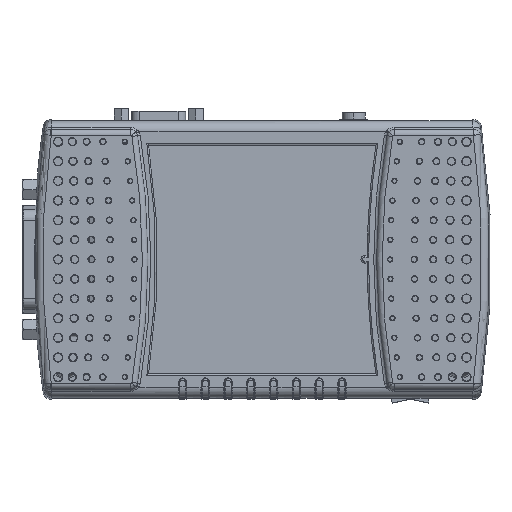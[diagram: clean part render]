
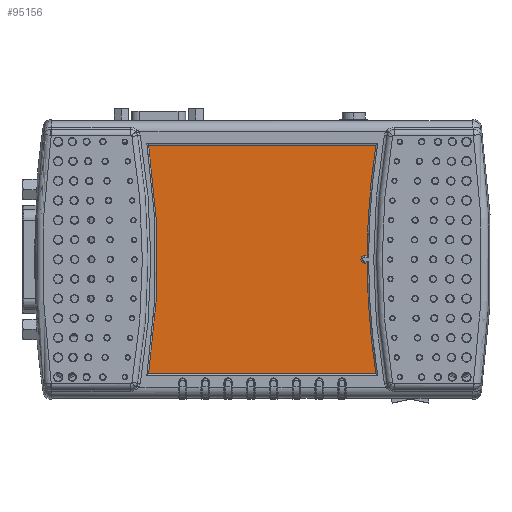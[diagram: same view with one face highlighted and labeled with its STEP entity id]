
A CAD part, top view. The second image highlights one B-rep face of the part: STEP entity #95156.
In plain terms, the highlighted planar face has unit normal (0, 0, 1).
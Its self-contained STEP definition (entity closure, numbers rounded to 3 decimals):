
#42520=CARTESIAN_POINT('',(1.381,-0.15,0.781));
#42527=DIRECTION('',(-1.,0.,0.));
#42528=VECTOR('',#42527,0.031);
#42529=CARTESIAN_POINT('',(1.381,-0.05,0.781));
#42530=LINE('',#42529,#42528);
#42531=CARTESIAN_POINT('',(1.35,-0.1,0.781));
#42532=DIRECTION('',(0.,0.,1.));
#42533=DIRECTION('',(0.,1.,0.));
#42534=AXIS2_PLACEMENT_3D('',#42531,#42532,#42533);
#42536=DIRECTION('',(1.,0.,0.));
#42537=VECTOR('',#42536,0.031);
#42538=CARTESIAN_POINT('',(1.35,-0.15,0.781));
#42539=LINE('',#42538,#42537);
#42540=CARTESIAN_POINT('',(11.2,-0.1,0.781));
#42541=DIRECTION('',(0.,0.,1.));
#42542=DIRECTION('',(-1.,-0.005,0.));
#42543=AXIS2_PLACEMENT_3D('',#42540,#42541,#42542);
#42545=DIRECTION('',(-1.,0.,0.));
#42546=VECTOR('',#42545,2.994);
#42547=CARTESIAN_POINT('',(1.497,-1.606,0.781));
#42548=LINE('',#42547,#42546);
#42549=CARTESIAN_POINT('',(-11.2,-0.1,0.781));
#42550=DIRECTION('',(0.,0.,1.));
#42551=DIRECTION('',(0.988,-0.153,0.));
#42552=AXIS2_PLACEMENT_3D('',#42549,#42550,#42551);
#42554=DIRECTION('',(1.,0.,0.));
#42555=VECTOR('',#42554,2.994);
#42556=CARTESIAN_POINT('',(-1.497,1.406,0.781));
#42557=LINE('',#42556,#42555);
#42558=CARTESIAN_POINT('',(11.2,-0.1,0.781));
#42559=DIRECTION('',(0.,0.,1.));
#42560=DIRECTION('',(-0.988,0.153,0.));
#42561=AXIS2_PLACEMENT_3D('',#42558,#42559,#42560);
#42659=CARTESIAN_POINT('',(-1.497,1.406,0.781));
#44884=VERTEX_POINT('',#42659);
#44886=VERTEX_POINT('',#42520);
#46423=CARTESIAN_POINT('',(1.381,-0.05,0.781));
#46424=CARTESIAN_POINT('',(1.35,-0.05,0.781));
#46425=VERTEX_POINT('',#46423);
#46426=VERTEX_POINT('',#46424);
#46427=CARTESIAN_POINT('',(1.35,-0.15,0.781));
#46428=VERTEX_POINT('',#46427);
#46433=CARTESIAN_POINT('',(1.497,1.406,0.781));
#46434=VERTEX_POINT('',#46433);
#46437=CARTESIAN_POINT('',(-1.497,-1.606,0.781));
#46438=VERTEX_POINT('',#46437);
#46439=CARTESIAN_POINT('',(1.497,-1.606,0.781));
#46440=VERTEX_POINT('',#46439);
#95135=CARTESIAN_POINT('',(0.,-0.1,0.781));
#95136=DIRECTION('',(0.,0.,-1.));
#95137=DIRECTION('',(1.,0.,0.));
#95138=AXIS2_PLACEMENT_3D('',#95135,#95136,#95137);
#95139=PLANE('',#95138);
#95141=ORIENTED_EDGE('',*,*,#95140,.T.);
#95143=ORIENTED_EDGE('',*,*,#95142,.T.);
#95144=ORIENTED_EDGE('',*,*,#95126,.T.);
#95145=ORIENTED_EDGE('',*,*,#95100,.T.);
#95147=ORIENTED_EDGE('',*,*,#95146,.T.);
#95149=ORIENTED_EDGE('',*,*,#95148,.T.);
#95151=ORIENTED_EDGE('',*,*,#95150,.T.);
#95153=ORIENTED_EDGE('',*,*,#95152,.T.);
#95154=EDGE_LOOP('',(#95141,#95143,#95144,#95145,#95147,#95149,#95151,#95153));
#95155=FACE_OUTER_BOUND('',#95154,.F.);
#95156=ADVANCED_FACE('',(#95155),#95139,.F.);
#42535=CIRCLE('',#42534,0.05);
#42544=CIRCLE('',#42543,9.819);
#42553=CIRCLE('',#42552,9.819);
#42562=CIRCLE('',#42561,9.819);
#95100=EDGE_CURVE('',#44886,#46440,#42544,.T.);
#95126=EDGE_CURVE('',#46428,#44886,#42539,.T.);
#95140=EDGE_CURVE('',#46425,#46426,#42530,.T.);
#95142=EDGE_CURVE('',#46426,#46428,#42535,.T.);
#95146=EDGE_CURVE('',#46440,#46438,#42548,.T.);
#95148=EDGE_CURVE('',#46438,#44884,#42553,.T.);
#95150=EDGE_CURVE('',#44884,#46434,#42557,.T.);
#95152=EDGE_CURVE('',#46434,#46425,#42562,.T.);
